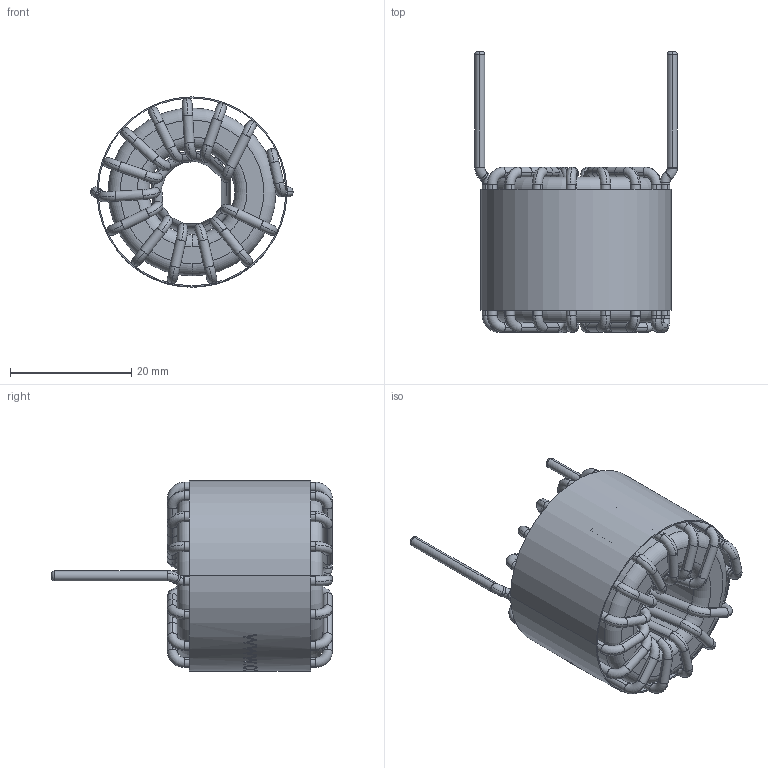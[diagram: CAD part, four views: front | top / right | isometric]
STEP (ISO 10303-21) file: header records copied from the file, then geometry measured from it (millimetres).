
FILE_DESCRIPTION (( 'STEP AP214' ), '1' );
FILE_NAME ('HF2702-700m-15.0AH.STEP', '2022-02-21T12:59:06', ( '' ), ( '' ), 'SwSTEP 2.0', 'SolidWorks 2015', '' );
FILE_SCHEMA (( 'AUTOMOTIVE_DESIGN' ));
Length unit declared in the file: millimetre
Products named in the file (4): HF2702-700m-15.0AH; winding; CORE; wrapper
Assembly tree (3 placements, depth 2):
  HF2702-700m-15.0AH
    CORE
    winding
    wrapper
Bounding box: 33.4 x 46.34 x 31.38 mm (x, y, z)
Volume: 12848.1 mm3; surface area: 12709.1 mm2
Topology: 24 solids, 24 shells, 520 faces, 1342 edges, 886 vertices
Faces by surface type: cylinder 206, torus 128, bspline 103, plane 83
Entity records: 25310 total; most frequent: CARTESIAN_POINT 10630, ORIENTED_EDGE 2684, DIRECTION 2652, EDGE_CURVE 1342, AXIS2_PLACEMENT_3D 1221, VERTEX_POINT 886, CIRCLE 798, EDGE_LOOP 540
